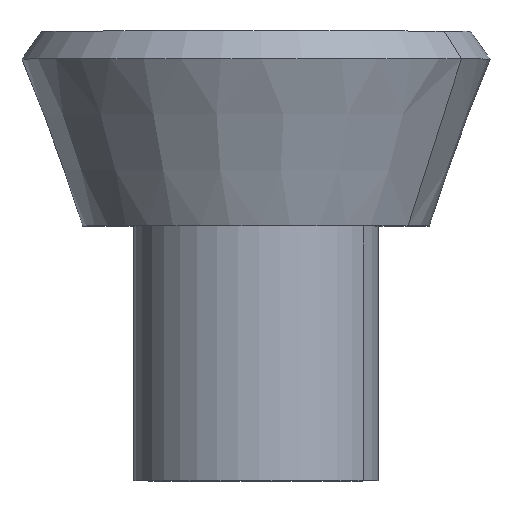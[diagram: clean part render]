
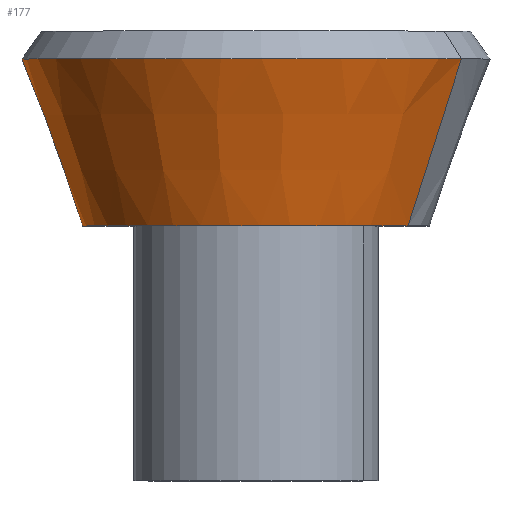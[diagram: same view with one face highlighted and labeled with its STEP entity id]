
A CAD part, top view. The second image highlights one B-rep face of the part: STEP entity #177.
In plain terms, the highlighted conical face has half-angle 20 degrees and reference radius 102 mm.
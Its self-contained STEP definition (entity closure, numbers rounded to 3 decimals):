
#114=CARTESIAN_POINT('Axis2P3D Location',(0.,0.,0.)) ;
#118=CARTESIAN_POINT('Vertex',(89.513,0.,48.901)) ;
#120=CARTESIAN_POINT('Vertex',(-89.513,0.,-48.901)) ;
#147=CARTESIAN_POINT('Axis2P3D Location',(0.,0.,0.)) ;
#152=CARTESIAN_POINT('Line Origine',(105.206,49.13,57.474)) ;
#156=CARTESIAN_POINT('Vertex',(120.899,98.259,66.047)) ;
#159=CARTESIAN_POINT('Axis2P3D Location',(0.,98.259,0.)) ;
#163=CARTESIAN_POINT('Vertex',(-120.899,98.259,-66.047)) ;
#166=CARTESIAN_POINT('Line Origine',(-105.206,49.13,-57.474)) ;
#115=DIRECTION('Axis2P3D Direction',(0.,-1.,0.)) ;
#148=DIRECTION('Axis2P3D Direction',(-0.,1.,-0.)) ;
#149=DIRECTION('Axis2P3D XDirection',(0.878,0.,0.479)) ;
#153=DIRECTION('Vector Direction',(0.3,0.94,0.164)) ;
#160=DIRECTION('Axis2P3D Direction',(0.,1.,-0.)) ;
#167=DIRECTION('Vector Direction',(-0.3,0.94,-0.164)) ;
#116=AXIS2_PLACEMENT_3D('Circle Axis2P3D',#114,#115,$) ;
#150=AXIS2_PLACEMENT_3D('Cone Axis2P3D',#147,#148,#149) ;
#161=AXIS2_PLACEMENT_3D('Circle Axis2P3D',#159,#160,$) ;
#172=ORIENTED_EDGE('',*,*,#122,.F.) ;
#173=ORIENTED_EDGE('',*,*,#158,.T.) ;
#174=ORIENTED_EDGE('',*,*,#165,.T.) ;
#175=ORIENTED_EDGE('',*,*,#170,.F.) ;
#154=VECTOR('Line Direction',#153,1.) ;
#168=VECTOR('Line Direction',#167,1.) ;
#177=ADVANCED_FACE('PartBody',(#176),#151,.T.) ;
#117=CIRCLE('generated circle',#116,102.) ;
#162=CIRCLE('generated circle',#161,137.764) ;
#151=CONICAL_SURFACE('Cone',#150,102.,0.349) ;
#122=EDGE_CURVE('',#119,#121,#117,.T.) ;
#158=EDGE_CURVE('',#119,#157,#155,.T.) ;
#165=EDGE_CURVE('',#157,#164,#162,.F.) ;
#170=EDGE_CURVE('',#121,#164,#169,.T.) ;
#171=EDGE_LOOP('',(#172,#173,#174,#175)) ;
#176=FACE_OUTER_BOUND('',#171,.T.) ;
#155=LINE('Line',#152,#154) ;
#169=LINE('Line',#166,#168) ;
#119=VERTEX_POINT('',#118) ;
#121=VERTEX_POINT('',#120) ;
#157=VERTEX_POINT('',#156) ;
#164=VERTEX_POINT('',#163) ;
